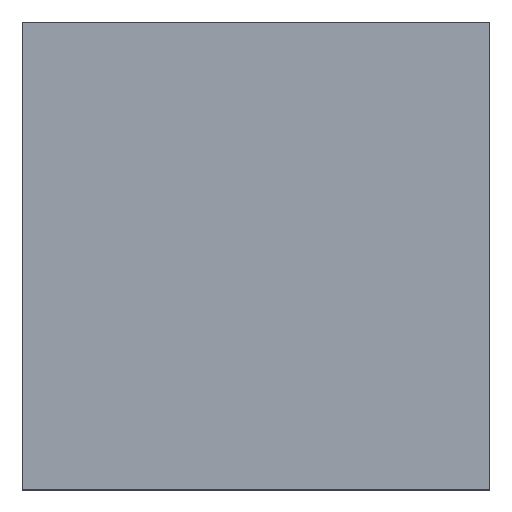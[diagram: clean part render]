
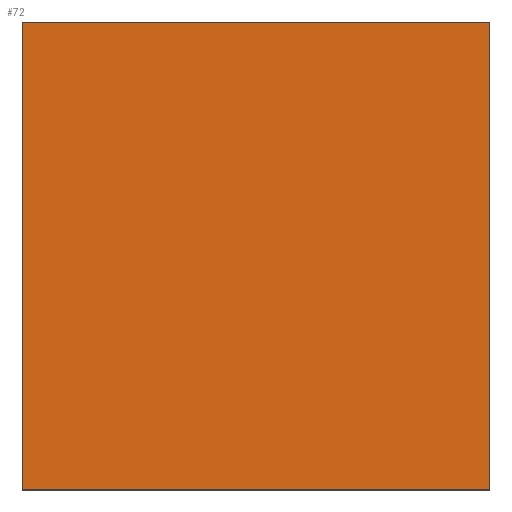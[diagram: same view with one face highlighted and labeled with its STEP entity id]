
A CAD part, top view. The second image highlights one B-rep face of the part: STEP entity #72.
In plain terms, the highlighted planar face has unit normal (0, 0, 1).
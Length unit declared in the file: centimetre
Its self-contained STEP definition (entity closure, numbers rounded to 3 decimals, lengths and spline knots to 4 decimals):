
#10 = PLANE ( 'NONE',  #183 ) ;
#31 = LINE ( 'NONE', #218, #194 ) ;
#36 = CARTESIAN_POINT ( 'NONE',  ( 1000., 0., 1000. ) ) ;
#49 = CARTESIAN_POINT ( 'NONE',  ( 0., 0., 1000. ) ) ;
#72 = ADVANCED_FACE ( 'NONE', ( #287 ), #10, .T. ) ;
#86 = CARTESIAN_POINT ( 'NONE',  ( 0., 0., 1000. ) ) ;
#130 = ORIENTED_EDGE ( 'NONE', *, *, #549, .T. ) ;
#146 = ORIENTED_EDGE ( 'NONE', *, *, #421, .T. ) ;
#158 = CARTESIAN_POINT ( 'NONE',  ( 1000., 1000., 1000. ) ) ;
#183 = AXIS2_PLACEMENT_3D ( 'NONE', #49, #184, #341 ) ;
#184 = DIRECTION ( 'NONE',  ( 0., 0., 1. ) ) ;
#186 = VERTEX_POINT ( 'NONE', #36 ) ;
#194 = VECTOR ( 'NONE', #366, 100. ) ;
#195 = VECTOR ( 'NONE', #538, 100. ) ;
#218 = CARTESIAN_POINT ( 'NONE',  ( 0., 1000., 1000. ) ) ;
#221 = CARTESIAN_POINT ( 'NONE',  ( 0., 1000., 1000. ) ) ;
#225 = DIRECTION ( 'NONE',  ( 1., 0., 0. ) ) ;
#234 = EDGE_LOOP ( 'NONE', ( #330, #146, #130, #489 ) ) ;
#255 = VERTEX_POINT ( 'NONE', #546 ) ;
#287 = FACE_OUTER_BOUND ( 'NONE', #234, .T. ) ;
#319 = EDGE_CURVE ( 'NONE', #255, #343, #452, .T. ) ;
#329 = VECTOR ( 'NONE', #357, 100. ) ;
#330 = ORIENTED_EDGE ( 'NONE', *, *, #319, .T. ) ;
#341 = DIRECTION ( 'NONE',  ( 1., 0., 0. ) ) ;
#343 = VERTEX_POINT ( 'NONE', #86 ) ;
#351 = VERTEX_POINT ( 'NONE', #513 ) ;
#357 = DIRECTION ( 'NONE',  ( 0., 1., 0. ) ) ;
#365 = LINE ( 'NONE', #158, #329 ) ;
#366 = DIRECTION ( 'NONE',  ( -1., 0., 0. ) ) ;
#402 = CARTESIAN_POINT ( 'NONE',  ( 0., 0., 1000. ) ) ;
#421 = EDGE_CURVE ( 'NONE', #343, #186, #465, .T. ) ;
#449 = EDGE_CURVE ( 'NONE', #351, #255, #31, .T. ) ;
#452 = LINE ( 'NONE', #221, #195 ) ;
#465 = LINE ( 'NONE', #402, #467 ) ;
#467 = VECTOR ( 'NONE', #225, 100. ) ;
#489 = ORIENTED_EDGE ( 'NONE', *, *, #449, .T. ) ;
#513 = CARTESIAN_POINT ( 'NONE',  ( 1000., 1000., 1000. ) ) ;
#538 = DIRECTION ( 'NONE',  ( 0., -1., 0. ) ) ;
#546 = CARTESIAN_POINT ( 'NONE',  ( 0., 1000., 1000. ) ) ;
#549 = EDGE_CURVE ( 'NONE', #186, #351, #365, .T. ) ;
